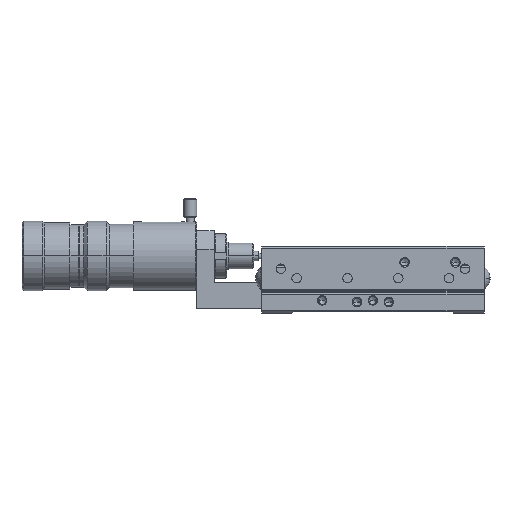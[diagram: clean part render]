
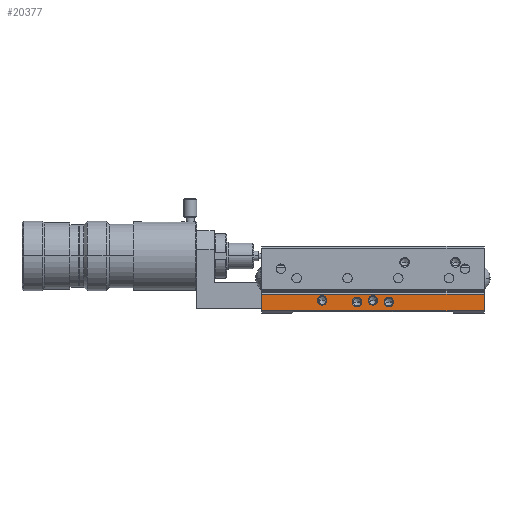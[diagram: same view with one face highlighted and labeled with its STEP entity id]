
A CAD part, left-side view. The second image highlights one B-rep face of the part: STEP entity #20377.
In plain terms, the highlighted planar face has unit normal (-1, 0, 0).
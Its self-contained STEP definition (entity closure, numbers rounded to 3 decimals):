
#6132 = DIRECTION ( 'NONE',  ( 0., -1., 0. ) ) ;
#6133 = DIRECTION ( 'NONE',  ( -1., 0., 0. ) ) ;
#6134 = CARTESIAN_POINT ( 'NONE',  ( -35., 5., 3.5 ) ) ;
#6135 = AXIS2_PLACEMENT_3D ( 'NONE', #6134, #6133, #6132 ) ;
#6136 = CIRCLE ( 'NONE', #6135, 1.5 ) ;
#6141 = CARTESIAN_POINT ( 'NONE',  ( -35., 6.5, 3.5 ) ) ;
#6146 = CARTESIAN_POINT ( 'NONE',  ( -35., 3.5, 3.5 ) ) ;
#8092 = CARTESIAN_POINT ( 'NONE',  ( -35., 35., 6. ) ) ;
#8296 = DIRECTION ( 'NONE',  ( 0., 0., 1. ) ) ;
#8297 = VECTOR ( 'NONE', #8296, 1000. ) ;
#8298 = CARTESIAN_POINT ( 'NONE',  ( -35., 35., 0.8 ) ) ;
#8299 = LINE ( 'NONE', #8298, #8297 ) ;
#19512 = VERTEX_POINT ( 'NONE', #35464 ) ;
#19514 = EDGE_CURVE ( 'NONE', #19512, #19515, #35459, .T. ) ;
#19515 = VERTEX_POINT ( 'NONE', #35454 ) ;
#19687 = VERTEX_POINT ( 'NONE', #35784 ) ;
#19689 = EDGE_CURVE ( 'NONE', #19687, #19690, #35785, .T. ) ;
#19690 = VERTEX_POINT ( 'NONE', #35842 ) ;
#20271 = ORIENTED_EDGE ( 'NONE', *, *, #20351, .F. ) ;
#20272 = ORIENTED_EDGE ( 'NONE', *, *, #20273, .T. ) ;
#20273 = EDGE_CURVE ( 'NONE', #23474, #20274, #36826, .T. ) ;
#20274 = VERTEX_POINT ( 'NONE', #36822 ) ;
#20275 = ORIENTED_EDGE ( 'NONE', *, *, #20430, .T. ) ;
#20320 = EDGE_LOOP ( 'NONE', ( #20327, #20359 ) ) ;
#20327 = ORIENTED_EDGE ( 'NONE', *, *, #20328, .F. ) ;
#20328 = EDGE_CURVE ( 'NONE', #19690, #19687, #35878, .T. ) ;
#20336 = ORIENTED_EDGE ( 'NONE', *, *, #28447, .F. ) ;
#20337 = EDGE_LOOP ( 'NONE', ( #20371, #20428 ) ) ;
#20347 = ORIENTED_EDGE ( 'NONE', *, *, #19514, .F. ) ;
#20351 = EDGE_CURVE ( 'NONE', #23474, #23460, #36955, .T. ) ;
#20352 = ORIENTED_EDGE ( 'NONE', *, *, #20353, .F. ) ;
#20353 = EDGE_CURVE ( 'NONE', #19515, #19512, #36948, .T. ) ;
#20359 = ORIENTED_EDGE ( 'NONE', *, *, #19689, .F. ) ;
#20360 = EDGE_LOOP ( 'NONE', ( #20375, #20336 ) ) ;
#20371 = ORIENTED_EDGE ( 'NONE', *, *, #20372, .F. ) ;
#20372 = EDGE_CURVE ( 'NONE', #23454, #23459, #36984, .T. ) ;
#20374 = EDGE_LOOP ( 'NONE', ( #20429, #20271, #20272, #20275 ) ) ;
#20375 = ORIENTED_EDGE ( 'NONE', *, *, #20376, .F. ) ;
#20376 = EDGE_CURVE ( 'NONE', #28442, #28444, #36974, .T. ) ;
#20377 = ADVANCED_FACE ( 'NONE', ( #36969, #36968, #36967, #36966, #36965 ), #36964, .T. ) ;
#20378 = EDGE_LOOP ( 'NONE', ( #20352, #20347 ) ) ;
#20428 = ORIENTED_EDGE ( 'NONE', *, *, #23455, .F. ) ;
#20429 = ORIENTED_EDGE ( 'NONE', *, *, #44755, .F. ) ;
#20430 = EDGE_CURVE ( 'NONE', #20274, #44663, #37077, .T. ) ;
#23454 = VERTEX_POINT ( 'NONE', #41839 ) ;
#23455 = EDGE_CURVE ( 'NONE', #23459, #23454, #41837, .T. ) ;
#23459 = VERTEX_POINT ( 'NONE', #41829 ) ;
#23460 = VERTEX_POINT ( 'NONE', #41828 ) ;
#23474 = VERTEX_POINT ( 'NONE', #41865 ) ;
#28442 = VERTEX_POINT ( 'NONE', #6146 ) ;
#28444 = VERTEX_POINT ( 'NONE', #6141 ) ;
#28447 = EDGE_CURVE ( 'NONE', #28444, #28442, #6136, .T. ) ;
#35388 = AXIS2_PLACEMENT_3D ( 'NONE', #35877, #36869, #36616 ) ;
#35454 = CARTESIAN_POINT ( 'NONE',  ( -35., -3.5, 3.5 ) ) ;
#35455 = DIRECTION ( 'NONE',  ( 0., 1., 0. ) ) ;
#35456 = DIRECTION ( 'NONE',  ( -1., 0., 0. ) ) ;
#35457 = CARTESIAN_POINT ( 'NONE',  ( -35., -5., 3.5 ) ) ;
#35458 = AXIS2_PLACEMENT_3D ( 'NONE', #35457, #35456, #35455 ) ;
#35459 = CIRCLE ( 'NONE', #35458, 1.5 ) ;
#35464 = CARTESIAN_POINT ( 'NONE',  ( -35., -6.5, 3.5 ) ) ;
#35784 = CARTESIAN_POINT ( 'NONE',  ( -35., 1.5, 4. ) ) ;
#35785 = CIRCLE ( 'NONE', #35846, 1.5 ) ;
#35842 = CARTESIAN_POINT ( 'NONE',  ( -35., -1.5, 4. ) ) ;
#35843 = DIRECTION ( 'NONE',  ( 0., -1., 0. ) ) ;
#35844 = DIRECTION ( 'NONE',  ( -1., 0., 0. ) ) ;
#35845 = CARTESIAN_POINT ( 'NONE',  ( -35., 0., 4. ) ) ;
#35846 = AXIS2_PLACEMENT_3D ( 'NONE', #35845, #35844, #35843 ) ;
#35877 = CARTESIAN_POINT ( 'NONE',  ( -35., 0., 4. ) ) ;
#35878 = CIRCLE ( 'NONE', #35388, 1.5 ) ;
#36616 = DIRECTION ( 'NONE',  ( 0., -1., 0. ) ) ;
#36822 = CARTESIAN_POINT ( 'NONE',  ( -35., -35., 6. ) ) ;
#36823 = DIRECTION ( 'NONE',  ( 0., 0., 1. ) ) ;
#36824 = VECTOR ( 'NONE', #36823, 1000. ) ;
#36825 = CARTESIAN_POINT ( 'NONE',  ( -35., -35., 0.8 ) ) ;
#36826 = LINE ( 'NONE', #36825, #36824 ) ;
#36869 = DIRECTION ( 'NONE',  ( -1., 0., 0. ) ) ;
#36944 = DIRECTION ( 'NONE',  ( 0., 1., 0. ) ) ;
#36945 = DIRECTION ( 'NONE',  ( -1., 0., 0. ) ) ;
#36946 = CARTESIAN_POINT ( 'NONE',  ( -35., -5., 3.5 ) ) ;
#36947 = AXIS2_PLACEMENT_3D ( 'NONE', #36946, #36945, #36944 ) ;
#36948 = CIRCLE ( 'NONE', #36947, 1.5 ) ;
#36949 = DIRECTION ( 'NONE',  ( 0., 1., 0. ) ) ;
#36950 = VECTOR ( 'NONE', #36949, 1000. ) ;
#36951 = CARTESIAN_POINT ( 'NONE',  ( -35., -35., 0.8 ) ) ;
#36955 = LINE ( 'NONE', #36951, #36950 ) ;
#36963 = CARTESIAN_POINT ( 'NONE',  ( -35., -35., 0.8 ) ) ;
#36964 = PLANE ( 'NONE',  #37024 ) ;
#36965 = FACE_OUTER_BOUND ( 'NONE', #20374, .T. ) ;
#36966 = FACE_BOUND ( 'NONE', #20337, .T. ) ;
#36967 = FACE_BOUND ( 'NONE', #20360, .T. ) ;
#36968 = FACE_BOUND ( 'NONE', #20320, .T. ) ;
#36969 = FACE_BOUND ( 'NONE', #20378, .T. ) ;
#36970 = DIRECTION ( 'NONE',  ( 0., -1., 0. ) ) ;
#36971 = DIRECTION ( 'NONE',  ( -1., 0., 0. ) ) ;
#36972 = CARTESIAN_POINT ( 'NONE',  ( -35., 5., 3.5 ) ) ;
#36973 = AXIS2_PLACEMENT_3D ( 'NONE', #36972, #36971, #36970 ) ;
#36974 = CIRCLE ( 'NONE', #36973, 1.5 ) ;
#36980 = DIRECTION ( 'NONE',  ( 0., -1., 0. ) ) ;
#36981 = DIRECTION ( 'NONE',  ( -1., 0., 0. ) ) ;
#36982 = CARTESIAN_POINT ( 'NONE',  ( -35., 16., 4. ) ) ;
#36983 = AXIS2_PLACEMENT_3D ( 'NONE', #36982, #36981, #36980 ) ;
#36984 = CIRCLE ( 'NONE', #36983, 1.5 ) ;
#37022 = DIRECTION ( 'NONE',  ( 0., 1., 0. ) ) ;
#37023 = DIRECTION ( 'NONE',  ( -1., 0., 0. ) ) ;
#37024 = AXIS2_PLACEMENT_3D ( 'NONE', #36963, #37023, #37022 ) ;
#37071 = DIRECTION ( 'NONE',  ( 0., 1., 0. ) ) ;
#37072 = VECTOR ( 'NONE', #37071, 1000. ) ;
#37073 = CARTESIAN_POINT ( 'NONE',  ( -35., -35., 6. ) ) ;
#37077 = LINE ( 'NONE', #37073, #37072 ) ;
#41828 = CARTESIAN_POINT ( 'NONE',  ( -35., 35., 0.8 ) ) ;
#41829 = CARTESIAN_POINT ( 'NONE',  ( -35., 17.5, 4. ) ) ;
#41833 = DIRECTION ( 'NONE',  ( 0., -1., 0. ) ) ;
#41834 = DIRECTION ( 'NONE',  ( -1., 0., 0. ) ) ;
#41835 = CARTESIAN_POINT ( 'NONE',  ( -35., 16., 4. ) ) ;
#41836 = AXIS2_PLACEMENT_3D ( 'NONE', #41835, #41834, #41833 ) ;
#41837 = CIRCLE ( 'NONE', #41836, 1.5 ) ;
#41839 = CARTESIAN_POINT ( 'NONE',  ( -35., 14.5, 4. ) ) ;
#41865 = CARTESIAN_POINT ( 'NONE',  ( -35., -35., 0.8 ) ) ;
#44663 = VERTEX_POINT ( 'NONE', #8092 ) ;
#44755 = EDGE_CURVE ( 'NONE', #23460, #44663, #8299, .T. ) ;
